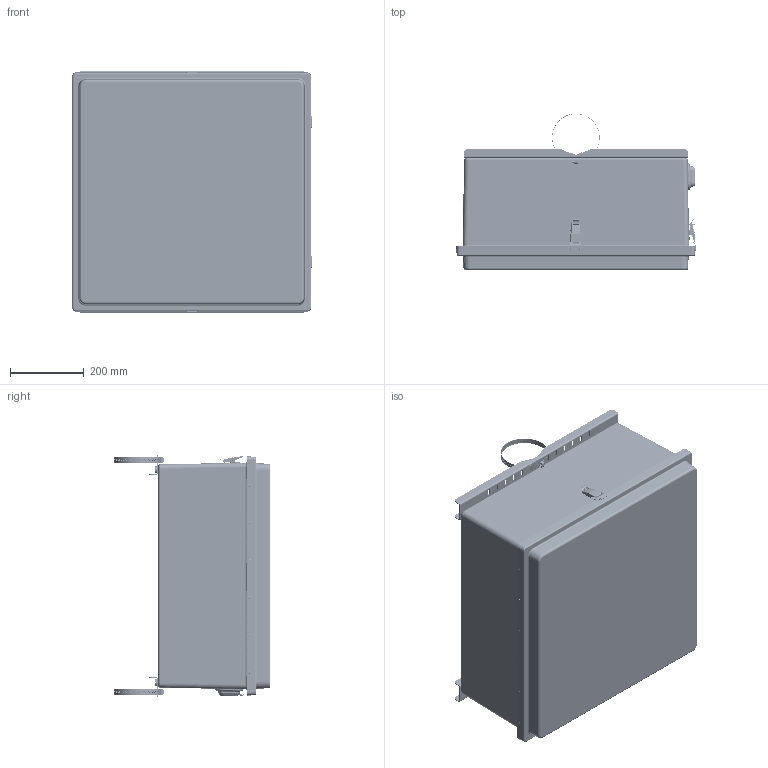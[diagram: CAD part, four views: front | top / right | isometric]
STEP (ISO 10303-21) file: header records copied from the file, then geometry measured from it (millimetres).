
FILE_DESCRIPTION( ( '' ), ' ' );
FILE_NAME( '/vol/tmp/translate-9618757952473577632/5d3b931674324d15a728ee12.step', '2019-07-26T23:56:08', ( '' ), ( '' ), ' ', ' ', ' ' );
FILE_SCHEMA( ( 'AUTOMOTIVE_DESIGN { 1 0 10303 214 1 1 1 1 }' ) );
Length unit declared in the file: metre
Products named in the file (59): 6-32 (Mounts Hinge/Latch to Cabinet) <1>; 70-63238316TX_SCREW_96710A258; 70-63238316TX_oring; 6-32 (Mounts Hinge/Latch to Cabinet) <8>; Cabinet <1>; 70-3816709; RLH Cabinet - 24 x 24 x 10; Latch 242410 <2>; 621-04 Rivet (f)316; 621-01 Lever316; 621-06 hook316; 621-05 Rivet (f)316; 621-02  BASE316; 6-32 (Mounts Hinge/Latch to Cabinet) <6>; Latch 242410 <1>; 6-32 (Mounts Hinge/Latch to Cabinet) <9>; 6-32 (Mounts Hinge/Latch to Cabinet) <5>; 6-32 (Mounts Hinge/Latch to Cabinet) <10>; 6-32 (Mounts Hinge/Latch to Cabinet) <3>; 6-32 (Mounts Hinge/Latch to Cabinet) <2>; 6-32 (Mounts Hinge/Latch to Cabinet) <7>; Hinge <1>; 70-60801R316 bottom; 70-60801R316 top; 70-60801R316 pin; Latch 242410 <3>; Cover <1>; W2424R_FIP POLYURETHANE GASKET; W2424R_COVER (LATCH); Latch 242410 <4>; 6-32 (Mounts Hinge/Latch to Cabinet) <4>; Allied Moulded 4X Vent <1>; WVENT4X; WVENT4X_FIP Gasket Profile; Pre Configured 24 x 24 x 10 Fiberglass Cabinet <1>; Rivet 70-60511316; 70-632TNUT; 70-60511316CE_DETAIL VIEW; Latch Keeper 23; 70-632DUALNUT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
Assembly tree (159 placements, depth 4):
  Assem1
    Type B regular flat washer 3/8  x6
    #5111  x8
    Pan head machine screw 3/8-16 x 0.75  x6
    #5127  x2
    Document Holder
    #5158  x2
    Backboard - 22.5 x 22.5
    Pre Configured 24 x 24 x 10 Fiberglass Cabinet <1>
      Rivet 70-60511316  x14
      70-632TNUT  x6
      70-60511316CE_DETAIL VIEW  x4
      70-60801R316 bottom
      Latch Keeper 23  x4
      70-60801R316 top
      70-632DUALNUT  x2
      Cabinet <1>
        70-3816709  x10
        RLH Cabinet - 24 x 24 x 10
      Hinge <1>
        70-60801R316 bottom
        70-60801R316 top
        70-60801R316 pin
      6-32 (Mounts Hinge/Latch to Cabinet) <2>
        70-63238316TX_SCREW_96710A258
        70-63238316TX_oring
      Latch 242410 <2>
        621-04 Rivet (f)316
        621-01 Lever316
        621-06 hook316
        621-05 Rivet (f)316
        621-02  BASE316
      6-32 (Mounts Hinge/Latch to Cabinet) <8>
        70-63238316TX_oring
        70-63238316TX_SCREW_96710A258
      6-32 (Mounts Hinge/Latch to Cabinet) <4>
        70-63238316TX_oring
        70-63238316TX_SCREW_96710A258
      6-32 (Mounts Hinge/Latch to Cabinet) <7>
        70-63238316TX_oring
        70-63238316TX_SCREW_96710A258
      Latch 242410 <3>
        621-01 Lever316
        621-06 hook316
        621-05 Rivet (f)316
        621-04 Rivet (f)316
        621-02  BASE316
      6-32 (Mounts Hinge/Latch to Cabinet) <9>
        70-63238316TX_SCREW_96710A258
        70-63238316TX_oring
      Latch 242410 <4>
        621-06 hook316
        621-04 Rivet (f)316
        621-02  BASE316
        621-01 Lever316
        621-05 Rivet (f)316
      Latch 242410 <1>
        621-04 Rivet (f)316
        621-02  BASE316
        621-05 Rivet (f)316
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Bounding box: 652.4 x 425.32 x 659.49 mm (x, y, z)
Volume: 12633140 mm3; surface area: 4534140.8 mm2
Topology: 137 solids, 137 shells, 7473 faces, 21413 edges, 14299 vertices
Faces by surface type: plane 3442, cylinder 1697, bspline 678, extrusion 628, torus 561, cone 367, sphere 80, revolution 20
Full cylindrical faces by diameter (mm): 0.412 x2, 0.525 x2, 1.524 x14, 2.286 x18, 2.642 x6, 2.705 x4, 2.921 x14, 3.048 x1, 3.15 x8, 3.175 x24, 3.251 x8, 3.353 x6, 3.429 x40, 3.454 x6, 3.505 x10, 3.556 x10, 3.607 x8, 3.658 x6, 3.81 x4, 3.967 x2, 4.064 x16, 4.572 x3, 4.724 x4, 4.775 x6, 4.826 x5, 4.869 x2, 4.978 x5, 5.08 x5, 5.588 x10, 5.944 x2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
Entity records: 165010 total; most frequent: CARTESIAN_POINT 58048, ORIENTED_EDGE 17164, DIRECTION 15206, EDGE_CURVE 8582, VERTEX_POINT 5718, AXIS2_PLACEMENT_3D 5450, VECTOR 4295, EDGE_LOOP 4095
